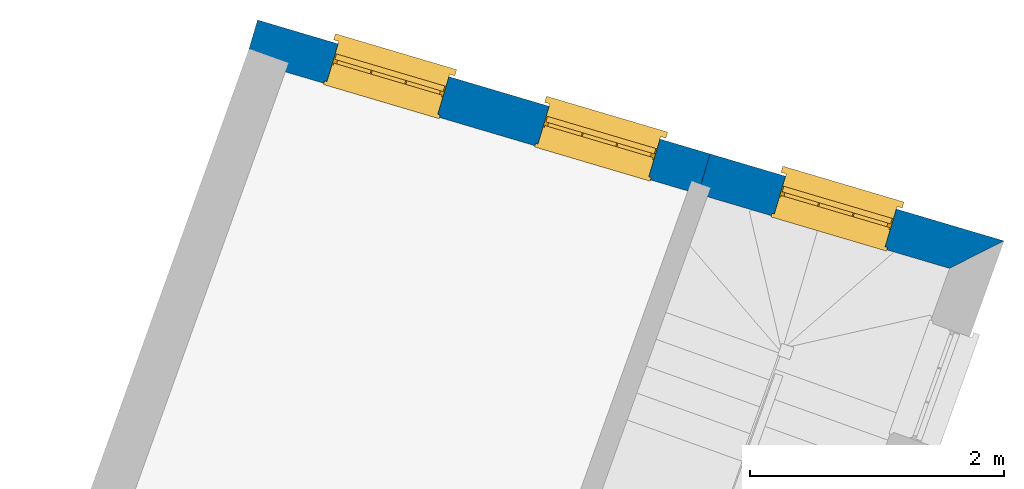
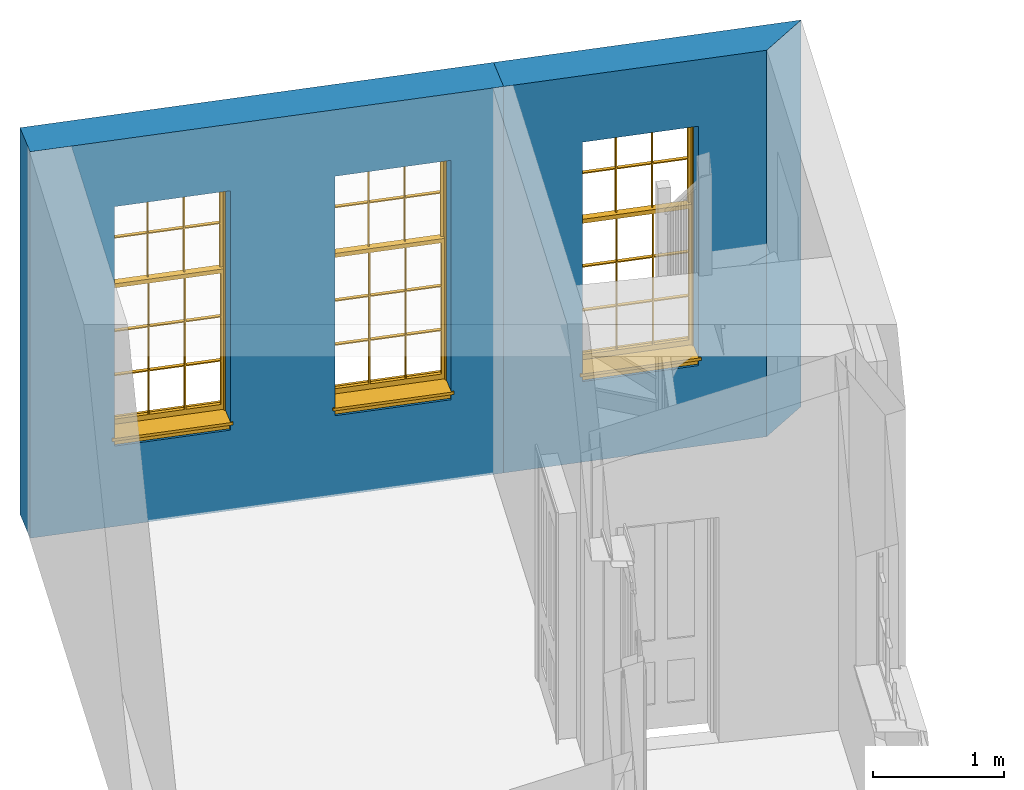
# One storey, part 3 of 3: 3 windows, 2 walls, 3 openings.
"""IFC4 building model written with IfcOpenShell, lengths in metres."""

from ifc_helpers import new_model, si_unit, frame, origin, origin_with_axes, place, context, subcontext, project, spatial, polyline, outline, extrude, faceted_brep, source, transform, mapped, material, layer, layer_set, layer_usage, type_object, type_shapes, element, fill, save


model = new_model("IFC4")

# Units and contexts
model_context = context("Model", 3, world=origin_with_axes())
body_context = subcontext(model_context, "Body", "Model", "MODEL_VIEW")
ifc_project = project(units=[si_unit("PLANEANGLEUNIT", "RADIAN"), si_unit("MASSUNIT", "GRAM", prefix="KILO"), si_unit("FORCEUNIT", "NEWTON", prefix="KILO"), si_unit("LENGTHUNIT", "METRE"), si_unit("AREAUNIT", "SQUARE_METRE"), si_unit("VOLUMEUNIT", "CUBIC_METRE")], contexts=[model_context, model_context])

# Sites, building, storey
site_1_placement = place(None, origin_with_axes())
site_1 = spatial("IfcSite", under=ifc_project, at=site_1_placement, Name="Tamar")
site_2_placement = place(site_1_placement, origin_with_axes())
site_2 = spatial("IfcSite", under=site_1, at=site_2_placement, Name="Site plot-23", CompositionType="ELEMENT")
building_placement = place(None, origin_with_axes())
building = spatial("IfcBuilding", under=site_2, at=building_placement, Name="Building plot-23", CompositionType="ELEMENT")
storey_placement = place(None, frame((0.0, 0.0, 29.6), z_axis=(0.0, 0.0, 1.0), x_axis=(1.0, 0.0, 0.0)))
storey = spatial("IfcBuildingStorey", under=building, at=storey_placement, Name="plot-23 1", CompositionType="ELEMENT", Elevation=29.6)

# Wall, opening, window
ifc_material = material(Name="Masonry")
ifc_layer = layer(ifc_material, 0.33, ventilated=False)
ifc_layer_set = layer_set([ifc_layer], Name="exterior_0.08_0.25")
ifc_layer_usage = layer_usage(ifc_layer_set, "AXIS2", "POSITIVE", -0.25)
wall_type = type_object("IfcWallType", Name="exterior_0.08_0.25", PredefinedType="SOLIDWALL", material=ifc_layer_set)
wall_1_placement = place(storey_placement, frame((267.671352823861, 281.516276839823, 0.0), z_axis=(0.0, 0.0, 1.0), x_axis=(-0.95889955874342, 0.283745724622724, 0.0)))
wall_1 = element("IfcWall", 1, at=wall_1_placement, inside=storey, type_object=wall_type, material=ifc_layer_usage, Name="exterior", context=body_context, shape_type="SweptSolid", body=[
    extrude(outline(polyline([(0.0847177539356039, 0.0800000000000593), (-0.264742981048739, -0.250000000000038), (2.14948972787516, -0.250000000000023), (2.14948972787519, 0.0800000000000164), (0.0847177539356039, 0.0800000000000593)])), origin_with_axes(), (0.0, 0.0, 1.0), 3.6),
])
opening_1_placement = place(wall_1_placement, frame((0.619744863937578, 0.0, 0.75)))
opening_1 = element("IfcOpeningElement", 2, at=opening_1_placement, cuts=wall_1, Name="My Opening", ObjectType="Opening", context=body_context, shape_type="SweptSolid", body=[
    extrude(outline(polyline([(0.0, -0.270000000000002), (0.910000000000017, -0.269999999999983), (0.910000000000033, 1.10000000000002), (1.59872115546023e-14, 1.1), (0.0, -0.270000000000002)])), origin_with_axes(), (0.0, 0.0, 1.0), 2.23),
])
window_type = type_object("IfcWindowType", Name="sash_big_taller", PartitioningType="DOUBLE_PANEL_HORIZONTAL", PredefinedType="NOTDEFINED")
shared_shape = source(origin(), body_context, "Body", "Brep", [
    faceted_brep([(0.033125, 0.145, 1.385209), (0.01, 0.145, 1.385209), (0.033125, 0.145, 1.786042), (0.876875, 0.145, 1.385209), (0.876875, 0.145, 1.786042), (0.9, 0.145, 1.385209), (0.876875, 0.145, 1.796042), (0.876875, 0.145, 2.196875), (0.9, 0.145, 2.22), (0.033125, 0.145, 2.196875), (0.033125, 0.145, 1.796042), (0.01, 0.145, 2.22), (0.876875, 0.115, 1.786042), (0.876875, 0.115, 1.385209), (0.9, 0.115, 1.347084), (0.033125, 0.115, 2.196875), (0.01, 0.115, 2.22), (0.033125, 0.115, 1.796042), (0.01, 0.115, 1.347084), (0.033125, 0.115, 1.385209), (0.033125, 0.115, 1.786042), (0.876875, 0.115, 2.196875), (0.876875, 0.115, 1.796042), (0.9, 0.115, 2.22), (0.033125, 0.145, 1.347084), (0.01, 0.145, 1.347084), (0.033125, 0.145, 0.94625), (0.876875, 0.145, 1.347084), (0.876875, 0.145, 0.94625), (0.9, 0.145, 1.347084), (0.876875, 0.145, 0.52625), (0.876875, 0.145, 0.125417), (0.9, 0.145, 0.077167), (0.033125, 0.145, 0.125417), (0.033125, 0.145, 0.52625), (0.01, 0.145, 0.077167), (-0.0425, 0.0, 0.01), (-0.0425, -0.05, 0.001667), (0.0, 0.0, 0.01), (0.9525, 0.0, 0.01), (0.91, 0.0, 0.01), (0.9525, -0.05, 0.001667), (-0.02, 0.33, 0.077167), (0.0, 0.33, 0.077167), (-0.02, 0.36, 0.077167), (0.0, 0.19, 0.077167), (0.01, 0.19, 0.077167), (0.91, 0.19, 0.077167), (0.91, 0.33, 0.077167), (0.9, 0.19, 0.077167), (0.93, 0.33, 0.077167), (0.93, 0.36, 0.077167), (0.01, 0.175, 1.385209), (0.9, 0.175, 1.385209), (0.876875, 0.175, 0.125417), (0.876875, 0.175, 0.52625), (0.9, 0.175, 0.077167), (0.876875, 0.175, 0.94625), (0.876875, 0.175, 1.347084), (0.033125, 0.175, 0.125417), (0.01, 0.175, 0.077167), (0.033125, 0.175, 0.52625), (0.033125, 0.175, 1.347084), (0.033125, 0.175, 0.94625), (-0.02, 0.33, 0.052167), (-0.02, 0.36, 0.052167), (0.93, 0.36, 0.052167), (0.93, 0.33, 0.052167), (0.91, 0.33, 0.052167), (0.0, 0.33, 0.052167), (0.91, 0.1, 0.026667), (0.0, 0.1, 0.026667), (-0.0425, -0.05, -0.123333), (0.9525, -0.05, -0.123333), (-0.0425, 0.0, -0.123333), (0.9525, 0.0, -0.123333), (0.01, 0.19, 2.22), (0.9, 0.19, 2.22), (0.0, 0.19, 2.23), (0.91, 0.19, 2.23), (0.01, 0.1, 0.077167), (0.9, 0.1, 0.077167), (0.592292, 0.145, 0.125417), (0.592292, 0.175, 0.125417), (0.317708, 0.175, 0.125417), (0.317708, 0.145, 0.125417), (0.592292, 0.145, 0.53625), (0.317708, 0.145, 0.53625), (0.317708, 0.145, 0.52625), (0.592292, 0.145, 0.52625), (0.592292, 0.175, 0.53625), (0.317708, 0.175, 0.53625), (0.592292, 0.115, 1.796042), (0.592292, 0.145, 1.796042), (0.317708, 0.145, 1.796042), (0.317708, 0.115, 1.796042), (0.317708, 0.115, 1.786042), (0.592292, 0.115, 1.786042), (0.317708, 0.145, 1.786042), (0.592292, 0.145, 1.786042), (0.602292, 0.115, 1.786042), (0.592292, 0.115, 1.385209), (0.602292, 0.115, 1.385209), (0.602292, 0.145, 1.385209), (0.592292, 0.145, 1.385209), (0.602292, 0.145, 1.786042), (0.876875, 0.145, 0.53625), (0.876875, 0.175, 0.53625), (0.602292, 0.175, 0.53625), (0.602292, 0.145, 0.53625), (0.317708, 0.175, 0.52625), (0.307708, 0.175, 0.125417), (0.307708, 0.175, 0.52625), (0.602292, 0.175, 0.52625), (0.602292, 0.175, 0.125417), (0.592292, 0.175, 0.52625), (0.307708, 0.175, 0.53625), (0.033125, 0.175, 0.53625), (0.317708, 0.175, 1.347084), (0.317708, 0.175, 0.94625), (0.307708, 0.175, 0.94625), (0.307708, 0.175, 1.347084), (0.602292, 0.175, 1.347084), (0.602292, 0.175, 0.94625), (0.592292, 0.175, 0.94625), (0.592292, 0.175, 1.347084), (0.307708, 0.145, 0.52625), (0.307708, 0.145, 0.125417), (0.307708, 0.145, 0.53625), (0.033125, 0.145, 0.53625), (0.307708, 0.145, 1.347084), (0.307708, 0.145, 0.94625), (0.592292, 0.145, 1.347084), (0.592292, 0.145, 0.94625), (0.317708, 0.145, 0.94625), (0.317708, 0.145, 1.347084), (0.602292, 0.145, 0.94625), (0.602292, 0.145, 1.347084), (0.602292, 0.145, 0.52625), (0.602292, 0.145, 0.125417), (0.307708, 0.115, 1.796042), (0.307708, 0.115, 1.786042), (0.307708, 0.115, 1.385209), (0.317708, 0.115, 1.385209), (0.317708, 0.115, 2.196875), (0.307708, 0.115, 2.196875), (0.602292, 0.115, 2.196875), (0.592292, 0.115, 2.196875), (0.602292, 0.115, 1.796042), (0.602292, 0.145, 1.796042), (0.307708, 0.145, 1.796042), (0.307708, 0.145, 2.196875), (0.317708, 0.145, 2.196875), (0.592292, 0.145, 2.196875), (0.602292, 0.145, 2.196875), (0.307708, 0.145, 1.786042), (0.317708, 0.145, 1.385209), (0.307708, 0.145, 1.385209), (0.876875, 0.175, 0.93625), (0.033125, 0.175, 0.93625), (0.033125, 0.145, 0.93625), (0.876875, 0.145, 0.93625), (0.91, 0.1, 2.23), (0.9, 0.1, 2.22), (0.01, 0.1, 2.22), (0.0, 0.1, 2.23), (0.91, 0.0, 0.0), (0.0, 0.0, 0.0), (0.91, 0.33, 0.0), (0.0, 0.33, 0.0), (0.317708, 0.145, 0.93625), (0.592292, 0.145, 0.93625), (0.317708, 0.175, 0.93625), (0.307708, 0.175, 0.93625), (0.602292, 0.175, 0.93625), (0.592292, 0.175, 0.93625), (0.307708, 0.145, 0.93625), (0.602292, 0.145, 0.93625)], [[[0, 1, 2]], [[3, 4, 5]], [[6, 7, 8]], [[9, 10, 11]], [[12, 13, 14]], [[15, 16, 17]], [[18, 19, 20]], [[21, 22, 23]], [[24, 25, 26]], [[27, 28, 29]], [[30, 31, 32]], [[33, 34, 35]], [[14, 27, 29]], [[25, 24, 18]], [[36, 37, 38]], [[39, 40, 41]], [[42, 43, 44]], [[45, 46, 43]], [[47, 48, 49]], [[50, 51, 48]], [[1, 0, 52]], [[5, 53, 3]], [[54, 55, 56]], [[57, 58, 53]], [[59, 60, 61]], [[62, 63, 52]], [[48, 43, 46, 49]], [[51, 44, 43, 48]], [[64, 42, 44, 65]], [[65, 44, 51, 66]], [[66, 51, 50, 67]], [[65, 66, 68, 69]], [[60, 56, 49, 46]], [[70, 71, 38, 40]], [[37, 41, 40, 38]], [[37, 72, 73, 41]], [[74, 75, 73, 72]], [[8, 11, 76, 77]], [[76, 78, 79, 77]], [[32, 35, 80, 81]], [[81, 80, 71, 70]], [[82, 83, 84, 85]], [[86, 87, 88, 89]], [[86, 90, 91, 87]], [[92, 93, 94, 95]], [[92, 95, 96, 97]], [[96, 98, 99, 97]], [[100, 97, 101, 102]], [[103, 104, 99, 105]], [[97, 99, 104, 101]], [[102, 103, 105, 100]], [[106, 107, 108, 109]], [[110, 84, 111, 112]], [[113, 114, 83, 115]], [[116, 112, 61, 117]], [[90, 115, 110, 91]], [[118, 119, 120, 121]], [[122, 123, 124, 125]], [[113, 108, 107, 55]], [[126, 112, 111, 127]], [[34, 61, 112, 126]], [[89, 115, 83, 82]], [[88, 110, 115, 89]], [[85, 84, 110, 88]], [[128, 116, 117, 129]], [[130, 121, 120, 131]], [[132, 125, 124, 133]], [[134, 119, 118, 135]], [[136, 123, 122, 137]], [[138, 113, 55, 30]], [[139, 114, 113, 138]], [[138, 30, 106, 109]], [[88, 126, 127, 85]], [[138, 89, 82, 139]], [[137, 132, 133, 136]], [[128, 129, 34, 126]], [[135, 130, 131, 134]], [[140, 17, 20, 141]], [[96, 141, 142, 143]], [[144, 145, 140, 95]], [[146, 147, 92, 148]], [[100, 12, 22, 148]], [[149, 6, 4, 105]], [[94, 150, 151, 152]], [[149, 93, 153, 154]], [[99, 98, 94, 93]], [[155, 2, 10, 150]], [[156, 157, 155, 98]], [[141, 155, 157, 142]], [[20, 2, 155, 141]], [[143, 156, 98, 96]], [[140, 150, 10, 17]], [[145, 151, 150, 140]], [[147, 153, 93, 92]], [[95, 94, 152, 144]], [[22, 6, 149, 148]], [[148, 149, 154, 146]], [[100, 105, 4, 12]], [[109, 86, 89, 138]], [[108, 113, 115, 90]], [[91, 110, 112, 116]], [[87, 128, 126, 88]], [[97, 100, 148, 92]], [[141, 96, 95, 140]], [[98, 155, 150, 94]], [[105, 99, 93, 149]], [[143, 101, 104, 156]], [[135, 118, 125, 132]], [[144, 152, 153, 147]], [[127, 111, 59, 33]], [[15, 9, 151, 145]], [[146, 154, 7, 21]], [[31, 54, 114, 139]], [[36, 74, 72, 37]], [[39, 41, 73, 75]], [[18, 14, 101, 143]], [[23, 16, 144, 147]], [[83, 56, 60, 84]], [[52, 53, 125, 118]], [[53, 52, 156, 104]], [[11, 8, 153, 152]], [[14, 18, 135, 132]], [[2, 1, 11, 10]], [[8, 5, 4, 6]], [[57, 53, 56, 158]], [[60, 52, 63, 159]], [[26, 25, 35, 160]], [[32, 29, 28, 161]], [[14, 23, 22, 12]], [[18, 20, 17, 16]], [[19, 0, 2, 20]], [[17, 10, 9, 15]], [[12, 4, 3, 13]], [[21, 7, 6, 22]], [[27, 58, 57, 28]], [[30, 55, 54, 31]], [[33, 59, 61, 34]], [[26, 63, 62, 24]], [[5, 8, 77, 53]], [[76, 11, 1, 52]], [[46, 45, 78, 76]], [[49, 77, 79, 47]], [[70, 162, 163, 81]], [[71, 80, 164, 165]], [[19, 142, 157, 0]], [[102, 13, 3, 103]], [[121, 130, 24, 62]], [[29, 32, 81, 14]], [[80, 35, 25, 18]], [[60, 46, 76, 52]], [[77, 49, 56, 53]], [[23, 14, 81, 163]], [[16, 164, 80, 18]], [[35, 85, 127]], [[127, 33, 35]], [[139, 82, 32]], [[32, 31, 139]], [[32, 82, 85, 35]], [[102, 101, 14]], [[14, 13, 102]], [[18, 143, 142]], [[142, 19, 18]], [[146, 21, 23]], [[23, 147, 146]], [[16, 15, 145]], [[145, 144, 16]], [[11, 152, 151]], [[151, 9, 11]], [[154, 153, 8]], [[8, 7, 154]], [[23, 163, 164, 16]], [[162, 165, 164, 163]], [[52, 118, 121]], [[121, 62, 52]], [[125, 53, 122]], [[58, 122, 53]], [[27, 137, 122, 58]], [[56, 83, 114]], [[114, 54, 56]], [[111, 84, 60]], [[60, 59, 111]], [[137, 27, 14]], [[14, 132, 137]], [[130, 135, 18]], [[18, 24, 130]], [[157, 156, 52]], [[52, 0, 157]], [[103, 3, 53]], [[53, 104, 103]], [[79, 78, 165, 162]], [[78, 45, 71, 165]], [[162, 70, 47, 79]], [[166, 75, 74, 167]], [[68, 66, 67]], [[48, 68, 67, 50]], [[69, 64, 65]], [[42, 64, 69, 43]], [[69, 68, 168, 169]], [[70, 68, 48, 47]], [[166, 168, 68, 70]], [[43, 69, 71, 45]], [[69, 169, 167, 71]], [[168, 166, 167, 169]], [[38, 167, 74, 36]], [[71, 167, 38]], [[39, 75, 166, 40]], [[40, 166, 70]], [[133, 134, 170, 171]], [[133, 124, 119, 134]], [[28, 57, 123, 136]], [[172, 91, 116, 173]], [[174, 108, 90, 175]], [[120, 173, 159, 63]], [[124, 175, 172, 119]], [[174, 123, 57, 158]], [[176, 173, 116, 128]], [[160, 159, 173, 176]], [[171, 175, 90, 86]], [[170, 172, 175, 171]], [[87, 91, 172, 170]], [[131, 120, 63, 26]], [[177, 174, 158, 161]], [[109, 108, 174, 177]], [[177, 161, 28, 136]], [[170, 176, 128, 87]], [[177, 171, 86, 109]], [[131, 26, 160, 176]], [[136, 133, 171, 177]], [[123, 174, 175, 124]], [[119, 172, 173, 120]], [[134, 131, 176, 170]], [[129, 117, 159, 160]], [[161, 158, 107, 106]], [[35, 34, 129]], [[35, 129, 160]], [[32, 106, 30]], [[32, 161, 106]], [[56, 55, 107]], [[56, 107, 158]], [[60, 117, 61]], [[60, 159, 117]]]),
])
type_shapes(window_type, [shared_shape])
window_1_placement = place(storey_placement, frame((267.153691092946, 281.951029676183, 0.75), z_axis=(0.0, 0.0, 1.0), x_axis=(-0.872598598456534, 0.258208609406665, 0.0)))
window_1 = element("IfcWindow", 3, at=window_1_placement, inside=storey, type_object=window_type, Name="circulation outside window", OverallHeight=2.23, OverallWidth=0.91, context=body_context, shape_type="MappedRepresentation", body=[
    mapped(shared_shape, transform((0.0, 0.0, 0.0), scale=1.0)),
])
fill(opening_1, window_1)

# Wall, openings, windows
wall_2_placement = place(storey_placement, frame((265.610208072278, 282.126185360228, 0.0), z_axis=(0.0, 0.0, 1.0), x_axis=(-0.958899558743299, 0.283745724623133, 0.0)))
wall_2 = element("IfcWall", 4, at=wall_2_placement, inside=storey, type_object=wall_type, material=ifc_layer_usage, Name="exterior", context=body_context, shape_type="SweptSolid", body=[
    extrude(outline(polyline([(-1.79007783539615e-14, 0.0800000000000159), (9.27189306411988e-14, -0.250000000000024), (3.71621589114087, -0.249999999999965), (3.71621589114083, 0.080000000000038), (-1.79007783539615e-14, 0.0800000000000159)])), origin_with_axes(), (0.0, 0.0, 1.0), 3.6),
])
opening_2_placement = place(wall_2_placement, frame((0.411553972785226, 0.0, 0.75)))
opening_2 = element("IfcOpeningElement", 5, at=opening_2_placement, cuts=wall_2, Name="My Opening", ObjectType="Opening", context=body_context, shape_type="SweptSolid", body=[
    extrude(outline(polyline([(0.0, -0.270000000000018), (0.910000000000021, -0.270000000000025), (0.910000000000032, 1.10000000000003), (1.01030295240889e-14, 1.10000000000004), (0.0, -0.270000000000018)])), origin_with_axes(), (0.0, 0.0, 1.0), 2.23),
])
opening_3_placement = place(wall_2_placement, frame((2.14466191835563, 0.0, 0.75)))
opening_3 = element("IfcOpeningElement", 6, at=opening_3_placement, cuts=wall_2, Name="My Opening", ObjectType="Opening", context=body_context, shape_type="SweptSolid", body=[
    extrude(outline(polyline([(0.0, -0.270000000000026), (0.910000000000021, -0.270000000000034), (0.910000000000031, 1.10000000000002), (1.02140518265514e-14, 1.10000000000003), (0.0, -0.270000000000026)])), origin_with_axes(), (0.0, 0.0, 1.0), 2.23),
])
window_2_placement = place(storey_placement, frame((265.292180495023, 282.501864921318, 0.75), z_axis=(0.0, 0.0, 1.0), x_axis=(-0.87259859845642, 0.258208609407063, 0.0)))
window_2 = element("IfcWindow", 7, at=window_2_placement, inside=storey, type_object=window_type, Name="living outside window", OverallHeight=2.23, OverallWidth=0.91, context=body_context, shape_type="MappedRepresentation", body=[
    mapped(shared_shape, transform((0.0, 0.0, 0.0), scale=1.0)),
])
fill(opening_2, window_2)
window_3_placement = place(storey_placement, frame((263.630304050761, 282.993626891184, 0.75), z_axis=(0.0, 0.0, 1.0), x_axis=(-0.87259859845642, 0.258208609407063, 0.0)))
window_3 = element("IfcWindow", 8, at=window_3_placement, inside=storey, type_object=window_type, Name="living outside window", OverallHeight=2.23, OverallWidth=0.91, context=body_context, shape_type="MappedRepresentation", body=[
    mapped(shared_shape, transform((0.0, 0.0, 0.0), scale=1.0)),
])
fill(opening_3, window_3)

save(model, "model.ifc")
